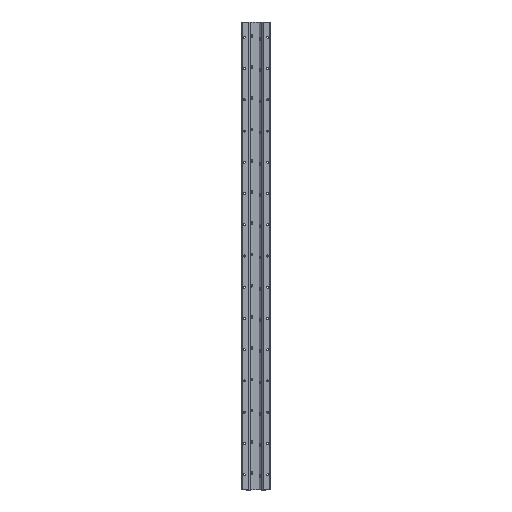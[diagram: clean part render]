
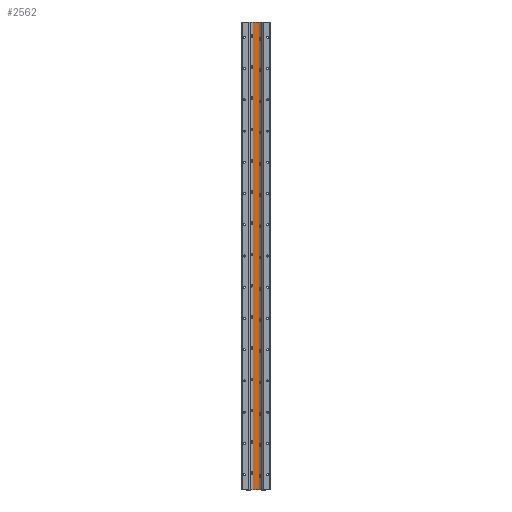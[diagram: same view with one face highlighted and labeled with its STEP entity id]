
A CAD part, front view. The second image highlights one B-rep face of the part: STEP entity #2562.
In plain terms, the highlighted planar face has unit normal (0, -1, 0).
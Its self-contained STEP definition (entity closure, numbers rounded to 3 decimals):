
#61 = EDGE_CURVE ( 'NONE', #64, #18673, #3960, .T. ) ;
#64 = VERTEX_POINT ( 'NONE', #3956 ) ;
#2562 = ADVANCED_FACE ( 'NONE', ( #9172 ), #9171, .T. ) ;
#2563 = EDGE_LOOP ( 'NONE', ( #2564, #2565, #2566, #2568 ) ) ;
#2564 = ORIENTED_EDGE ( 'NONE', *, *, #3199, .F. ) ;
#2565 = ORIENTED_EDGE ( 'NONE', *, *, #3262, .F. ) ;
#2566 = ORIENTED_EDGE ( 'NONE', *, *, #2567, .T. ) ;
#2567 = EDGE_CURVE ( 'NONE', #3267, #64, #9166, .T. ) ;
#2568 = ORIENTED_EDGE ( 'NONE', *, *, #61, .T. ) ;
#3199 = EDGE_CURVE ( 'NONE', #3338, #18673, #10327, .T. ) ;
#3262 = EDGE_CURVE ( 'NONE', #3267, #3338, #10412, .T. ) ;
#3267 = VERTEX_POINT ( 'NONE', #10466 ) ;
#3338 = VERTEX_POINT ( 'NONE', #10575 ) ;
#3956 = CARTESIAN_POINT ( 'NONE',  ( 11.015, 19., -1496. ) ) ;
#3957 = DIRECTION ( 'NONE',  ( 0., 0., 1. ) ) ;
#3958 = VECTOR ( 'NONE', #3957, 1000. ) ;
#3959 = CARTESIAN_POINT ( 'NONE',  ( 11.015, 19., -1496. ) ) ;
#3960 = LINE ( 'NONE', #3959, #3958 ) ;
#9163 = DIRECTION ( 'NONE',  ( 1., 0., 0. ) ) ;
#9164 = VECTOR ( 'NONE', #9163, 1000. ) ;
#9165 = CARTESIAN_POINT ( 'NONE',  ( -11.015, 19., -1496. ) ) ;
#9166 = LINE ( 'NONE', #9165, #9164 ) ;
#9167 = DIRECTION ( 'NONE',  ( 0., 0., -1. ) ) ;
#9168 = DIRECTION ( 'NONE',  ( 0., -1., 0. ) ) ;
#9169 = CARTESIAN_POINT ( 'NONE',  ( -11.015, 19., -1496. ) ) ;
#9170 = AXIS2_PLACEMENT_3D ( 'NONE', #9169, #9168, #9167 ) ;
#9171 = PLANE ( 'NONE',  #9170 ) ;
#9172 = FACE_OUTER_BOUND ( 'NONE', #2563, .T. ) ;
#10197 = DIRECTION ( 'NONE',  ( 0., 0., 1. ) ) ;
#10199 = VECTOR ( 'NONE', #10197, 1000. ) ;
#10324 = DIRECTION ( 'NONE',  ( 1., 0., 0. ) ) ;
#10325 = VECTOR ( 'NONE', #10324, 1000. ) ;
#10326 = CARTESIAN_POINT ( 'NONE',  ( -11.015, 19., 0. ) ) ;
#10327 = LINE ( 'NONE', #10326, #10325 ) ;
#10411 = CARTESIAN_POINT ( 'NONE',  ( -11.015, 19., -1496. ) ) ;
#10412 = LINE ( 'NONE', #10411, #10199 ) ;
#10466 = CARTESIAN_POINT ( 'NONE',  ( -11.015, 19., -1496. ) ) ;
#10575 = CARTESIAN_POINT ( 'NONE',  ( -11.015, 19., 0. ) ) ;
#13169 = CARTESIAN_POINT ( 'NONE',  ( 11.015, 19., 0. ) ) ;
#18673 = VERTEX_POINT ( 'NONE', #13169 ) ;
